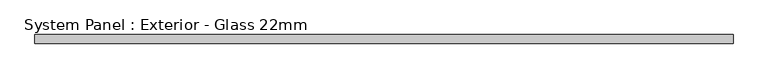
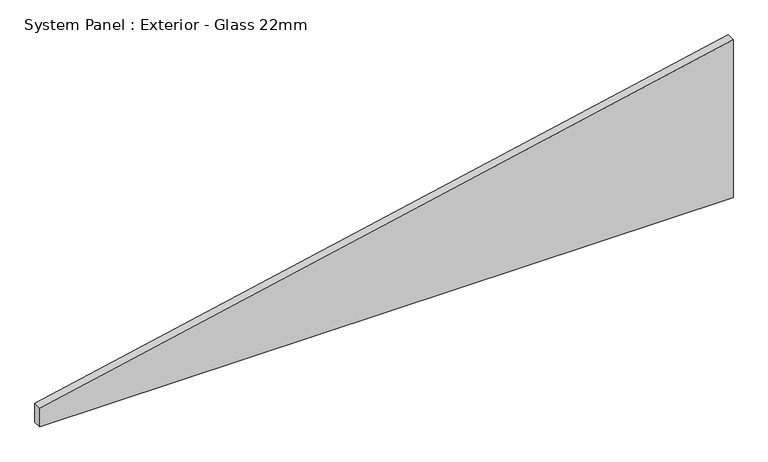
"""IFC4 building model written with IfcOpenShell, lengths in millimetres: plate geometry, System Panel : Exterior - Glass 22mm."""

from ifc_helpers import new_model, si_unit, frame, origin, place, context, project, spatial, polyline, outline, extrude, source, transform, mapped, element, save


def system_panel_exterior_glass_22mm_213b490c(model_context):
    return source(origin(), model_context, "Body", "SweptSolid", [
        extrude(outline(polyline([(0.0, -892.5), (0.0, 892.5), (430.4115111, 892.5), (50.9980486, -892.5), (0.0, -892.5)])), frame((0.0, -50.0, 0.0), z_axis=(0.0, 1.0, 0.0), x_axis=(0.0, 0.0, 1.0)), (0.0, 0.0, 1.0), 22.0),
    ])


if __name__ == "__main__":
    model = new_model("IFC4")
    model_context = context("Model", 3, world=origin())
    ifc_project = project(units=[si_unit("LENGTHUNIT", "METRE", prefix="MILLI")], contexts=[model_context])
    site = spatial("IfcSite", under=ifc_project)
    building = spatial("IfcBuilding", under=site)
    placement = place(None, origin())
    system_panel_exterior_glass_22mm_shape = system_panel_exterior_glass_22mm_213b490c(model_context)
    element("IfcPlate", 1, ObjectType="System Panel : Exterior - Glass 22mm", at=placement, inside=building, context=model_context, shape_type="MappedRepresentation", body=[
        mapped(system_panel_exterior_glass_22mm_shape, transform((0.0, 0.0, 0.0), x_axis=(1.0, 0.0, 0.0), y_axis=(0.0, 1.0, 0.0), z_axis=(0.0, 0.0, 1.0))),
    ])
    save(model, "model.ifc")
